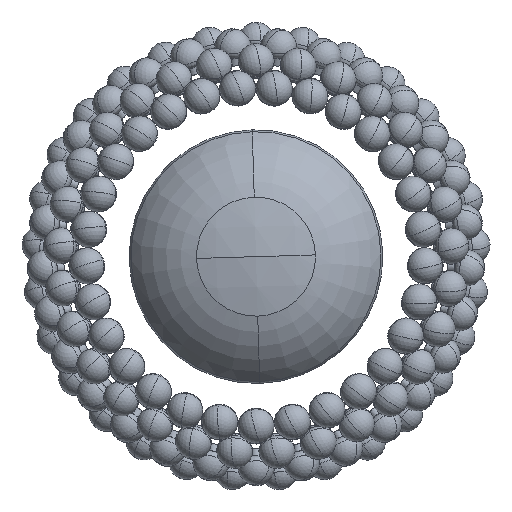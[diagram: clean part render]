
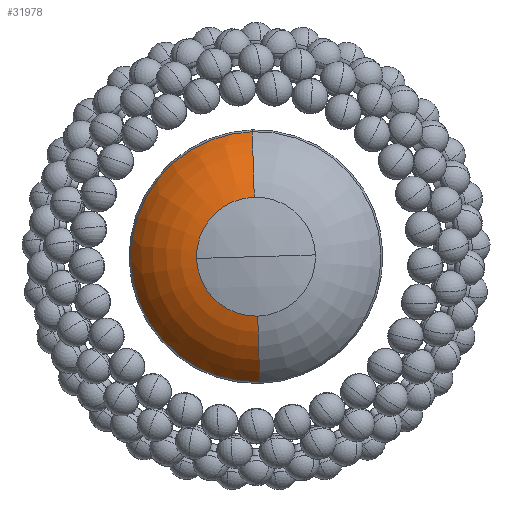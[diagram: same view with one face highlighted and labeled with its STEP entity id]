
A CAD part, front view. The second image highlights one B-rep face of the part: STEP entity #31978.
In plain terms, the highlighted toroidal (fillet/blend) face has major radius 36.732 mm and minor radius 120 mm.
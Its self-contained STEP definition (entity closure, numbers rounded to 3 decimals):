
#1367 = DIRECTION ( 'NONE',  ( 0., -1., 0. ) ) ;
#2579 = ORIENTED_EDGE ( 'NONE', *, *, #63036, .T. ) ;
#2917 = FACE_OUTER_BOUND ( 'NONE', #50320, .T. ) ;
#5413 = CARTESIAN_POINT ( 'NONE',  ( 0., 25.393, 0. ) ) ;
#9392 = CARTESIAN_POINT ( 'NONE',  ( -1.088, 25.393, 36.716 ) ) ;
#9731 = VERTEX_POINT ( 'NONE', #93279 ) ;
#11366 = ORIENTED_EDGE ( 'NONE', *, *, #63798, .F. ) ;
#12504 = CIRCLE ( 'NONE', #67601, 120. ) ;
#13886 = CARTESIAN_POINT ( 'NONE',  ( 0., -37.513, 0. ) ) ;
#18632 = AXIS2_PLACEMENT_3D ( 'NONE', #24192, #76019, #82376 ) ;
#18879 = VERTEX_POINT ( 'NONE', #39027 ) ;
#19158 = DIRECTION ( 'NONE',  ( -0.03, 0., 1. ) ) ;
#19741 = CARTESIAN_POINT ( 'NONE',  ( -4.115, -37.513, 138.861 ) ) ;
#19801 = DIRECTION ( 'NONE',  ( 0., -1., 0. ) ) ;
#24192 = CARTESIAN_POINT ( 'NONE',  ( 0., -90.954, 0. ) ) ;
#25181 = DIRECTION ( 'NONE',  ( 1., 0., 0.03 ) ) ;
#28454 = DIRECTION ( 'NONE',  ( -1., 0., -0.03 ) ) ;
#30720 = CARTESIAN_POINT ( 'NONE',  ( 1.958, -90.954, -66.089 ) ) ;
#31978 = ADVANCED_FACE ( 'NONE', ( #2917 ), #69758, .T. ) ;
#34633 = DIRECTION ( 'NONE',  ( -0.03, 0., 1. ) ) ;
#38076 = VERTEX_POINT ( 'NONE', #30720 ) ;
#38275 = AXIS2_PLACEMENT_3D ( 'NONE', #5413, #19801, #34633 ) ;
#39027 = CARTESIAN_POINT ( 'NONE',  ( 4.115, -37.513, -138.861 ) ) ;
#47831 = EDGE_CURVE ( 'NONE', #57421, #90272, #12504, .T. ) ;
#50173 = CIRCLE ( 'NONE', #18632, 66.118 ) ;
#50320 = EDGE_LOOP ( 'NONE', ( #2579, #56075, #11366, #81293, #65479 ) ) ;
#53319 = AXIS2_PLACEMENT_3D ( 'NONE', #13886, #72647, #81352 ) ;
#53861 = CARTESIAN_POINT ( 'NONE',  ( 0., -90.954, 0. ) ) ;
#56075 = ORIENTED_EDGE ( 'NONE', *, *, #96082, .T. ) ;
#57421 = VERTEX_POINT ( 'NONE', #19741 ) ;
#60953 = CIRCLE ( 'NONE', #76671, 66.118 ) ;
#63036 = EDGE_CURVE ( 'NONE', #57421, #18879, #95652, .T. ) ;
#63798 = EDGE_CURVE ( 'NONE', #9731, #38076, #50173, .T. ) ;
#64208 = CIRCLE ( 'NONE', #72026, 120. ) ;
#65479 = ORIENTED_EDGE ( 'NONE', *, *, #47831, .F. ) ;
#67601 = AXIS2_PLACEMENT_3D ( 'NONE', #9392, #25181, #85714 ) ;
#69758 = TOROIDAL_SURFACE ( 'NONE', #38275, 36.732, 120. ) ;
#71438 = DIRECTION ( 'NONE',  ( -0.03, 0., 1. ) ) ;
#71899 = CARTESIAN_POINT ( 'NONE',  ( 1.088, 25.393, -36.716 ) ) ;
#72026 = AXIS2_PLACEMENT_3D ( 'NONE', #71899, #28454, #19158 ) ;
#72647 = DIRECTION ( 'NONE',  ( 0., -1., 0. ) ) ;
#76019 = DIRECTION ( 'NONE',  ( 0., -1., 0. ) ) ;
#76671 = AXIS2_PLACEMENT_3D ( 'NONE', #53861, #1367, #71438 ) ;
#79034 = EDGE_CURVE ( 'NONE', #90272, #9731, #60953, .T. ) ;
#81293 = ORIENTED_EDGE ( 'NONE', *, *, #79034, .F. ) ;
#81352 = DIRECTION ( 'NONE',  ( -0.03, 0., 1. ) ) ;
#82376 = DIRECTION ( 'NONE',  ( -0.03, 0., 1. ) ) ;
#85714 = DIRECTION ( 'NONE',  ( 0.03, 0., -1. ) ) ;
#88593 = CARTESIAN_POINT ( 'NONE',  ( -1.958, -90.954, 66.089 ) ) ;
#90272 = VERTEX_POINT ( 'NONE', #88593 ) ;
#93279 = CARTESIAN_POINT ( 'NONE',  ( -66.089, -90.954, -1.958 ) ) ;
#95652 = CIRCLE ( 'NONE', #53319, 138.922 ) ;
#96082 = EDGE_CURVE ( 'NONE', #18879, #38076, #64208, .T. ) ;
